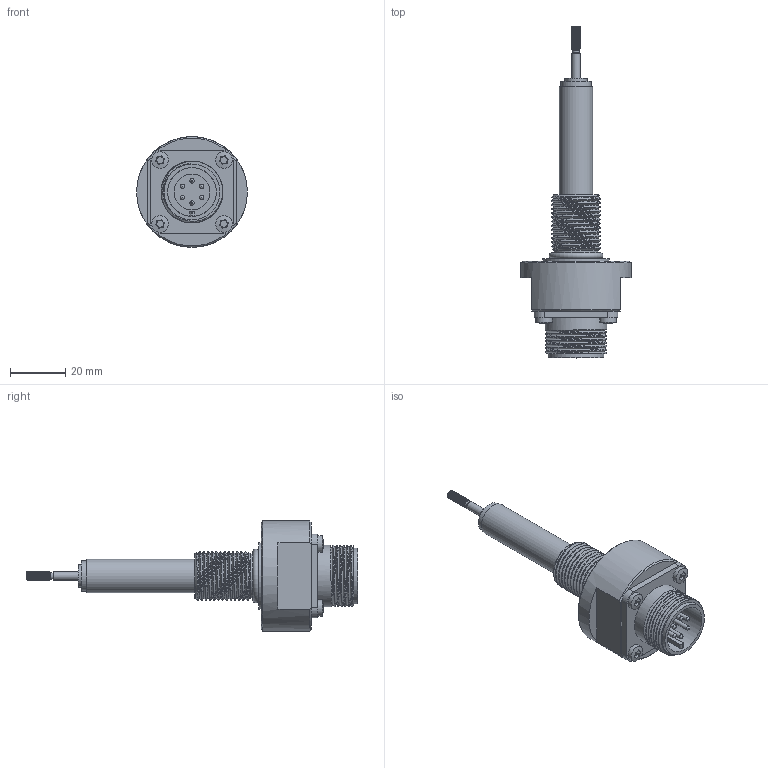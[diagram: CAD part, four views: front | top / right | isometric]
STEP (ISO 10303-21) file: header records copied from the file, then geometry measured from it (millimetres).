
FILE_DESCRIPTION( ( 'Unknown' ), '1' );
FILE_NAME( 'N:/Engineering/CAD/LVDT/HYD/Kunden-3D-Modell/SM10-HYD-18-S.stp', 'Unknown', ( 'Unknown' ), ( 'Unknown' ), 'PSStep 17.0.49', 'Unknown', ' ' );
FILE_SCHEMA( ( 'AUTOMOTIVE_DESIGN { 1 0 10303 214 1 1 1 1 }' ) );
Length unit declared in the file: millimetre
Products named in the file (9): Assem1; Endkappe; Innenrohr_SM5-HYD; Kernverlängerung_SM5-HYD; SM-HYD-Flansch_M18_vereinfacht; O-Ring_15,4x2,1; MIL-Stecker_2; DIN7985_M3-6_Torx; Aussenrohr_SM10-HYD_vereinfacht
Assembly tree (11 placements, depth 2):
  Assem1
    Endkappe
    Innenrohr_SM5-HYD
    Kernverlängerung_SM5-HYD
    SM-HYD-Flansch_M18_vereinfacht
    O-Ring_15,4x2,1
    MIL-Stecker_2
    DIN7985_M3-6_Torx  x4
    Aussenrohr_SM10-HYD_vereinfacht
Bounding box: 40 x 119.9 x 40 mm (x, y, z)
Volume: 36733 mm3; surface area: 20489.7 mm2
Topology: 11 solids, 11 shells, 255 faces, 589 edges, 385 vertices
Faces by surface type: plane 132, cylinder 82, cone 22, bspline 14, sphere 4, torus 1
Full cylindrical faces by diameter (mm): 1.4 x6, 1.6 x6, 2.013 x1, 2.4 x1, 2.5 x8, 3 x9, 4 x1, 6 x6, 8 x1, 10 x1, 11 x2, 12 x3, 13 x1, 15.8 x1, 17.6 x1, 18.8 x1, 20.2 x1, 22.3 x7, 24 x1, 40 x1
Entity records: 13563 total; most frequent: CARTESIAN_POINT 8176, DIRECTION 792, ORIENTED_EDGE 656, AXIS2_PLACEMENT_3D 336, EDGE_CURVE 328, EDGE_LOOP 289, VERTEX_POINT 255, FACE_OUTER_BOUND 236
